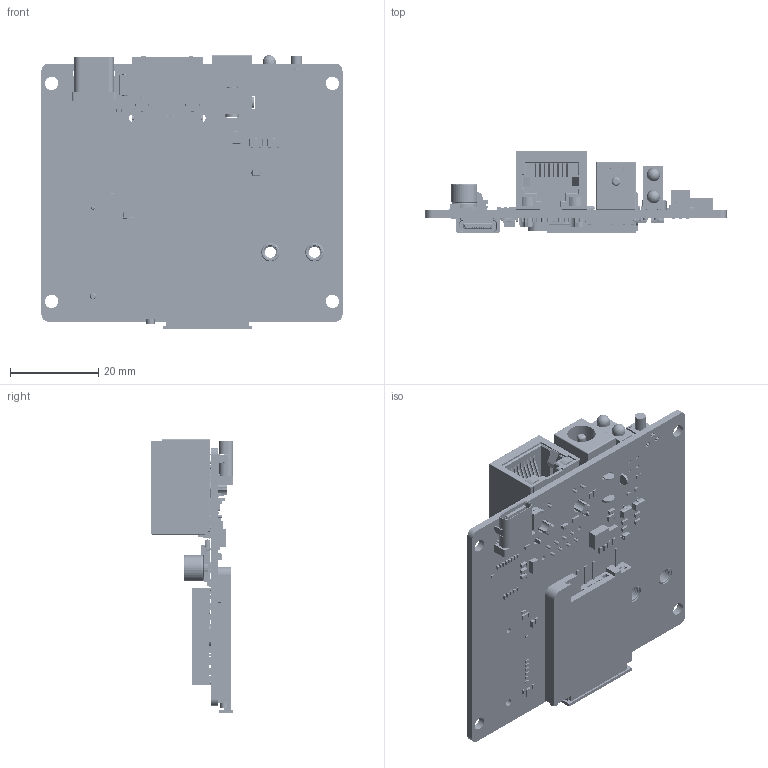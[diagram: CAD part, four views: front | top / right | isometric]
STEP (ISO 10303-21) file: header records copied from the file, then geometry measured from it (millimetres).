
FILE_DESCRIPTION((''),'2;1');
FILE_NAME('5G-M_2-TO-GIGABIT-ETH-PCBA_ASM','2024-09-12T16:56:38',('xiaojisheng'),(''),'CREO PARAMETRIC BY PTC INC, 2021063','CREO PARAMETRIC BY PTC INC, 2021063','');
FILE_SCHEMA(('CONFIG_CONTROL_DESIGN','SHAPE_APPEARANCE_LAYERS_GROUPS'));
Products named in the file (238): 5G-M_2-TO-GIGABIT-ETH-PCB-0811; TACT-SWITCH-4_5X4_5X6; LED_DOUBLE; DC-H11X9XL14_5; RJ45_HR911105A; TYPE-C_USB3_1-B-DIP-SMT-24P; WIFI-WIRLESS-BASE; STUDS-M3XH2_5; SIM3_0-PUSH-XNT; SOT-23; T1_ASM; USER_LIBRARY-RES_1609-0603_1; USER_LIBRARY-RES_1609-0603_2; USER_LIBRARY-RES_1609-0603_3; USER_LIBRARY-RES_1609-0603_4; USER_LIBRARY-RES_1609-0603_ASM; R24_ASM; R23_ASM; R22_ASM; R21_ASM; Q1_ASM; SOD323; D6_ASM; _2_1_20001; 5_1_2_A; _7_AF0; R_0402-3099_AF0_ASM_ASM; R_0402-5222_AF0_ASM_ASM; R0402_ASM; R34_ASM; R20_ASM; R19_ASM; R18_ASM; R17_ASM; L0603_1; L0603_2; L0603_3; L0603_ASM; L7_ASM; 2_1_200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
Assembly tree (360 placements, depth 9):
  5G-M_2-TO-GIGABIT-ETH-PCBA_ASM
    5G-M_2-TO-GIGABIT-ETH-PCB-0811
    TACT-SWITCH-4_5X4_5X6
    LED_DOUBLE
    DC-H11X9XL14_5
    RJ45_HR911105A
    TYPE-C_USB3_1-B-DIP-SMT-24P
    WIFI-WIRLESS-BASE
    STUDS-M3XH2_5  x2
    SIM3_0-PUSH-XNT
    5G_M_2_TO_GIGABIT_ETH_ASM
      PCB_ASM
        BACK-LAYOUT_ASM
          T1_ASM
            SOT-23
          R24_ASM
            USER_LIBRARY-RES_1609-0603_ASM
              USER_LIBRARY-RES_1609-0603_1
              USER_LIBRARY-RES_1609-0603_2
              USER_LIBRARY-RES_1609-0603_3
              USER_LIBRARY-RES_1609-0603_4
          R23_ASM
            USER_LIBRARY-RES_1609-0603_ASM
              USER_LIBRARY-RES_1609-0603_1
              USER_LIBRARY-RES_1609-0603_2
              USER_LIBRARY-RES_1609-0603_3
              USER_LIBRARY-RES_1609-0603_4
          R22_ASM
            USER_LIBRARY-RES_1609-0603_ASM
              USER_LIBRARY-RES_1609-0603_1
              USER_LIBRARY-RES_1609-0603_2
              USER_LIBRARY-RES_1609-0603_3
              USER_LIBRARY-RES_1609-0603_4
          R21_ASM
            USER_LIBRARY-RES_1609-0603_ASM
              USER_LIBRARY-RES_1609-0603_1
              USER_LIBRARY-RES_1609-0603_2
              USER_LIBRARY-RES_1609-0603_3
              USER_LIBRARY-RES_1609-0603_4
          Q1_ASM
            SOT-23
          D6_ASM
            SOD323
          R34_ASM
            R0402_ASM
              R_0402-5222_AF0_ASM_ASM
                R_0402-3099_AF0_ASM_ASM
                  _2_1_20001
                  5_1_2_A
                  _7_AF0
          R20_ASM
            R0402_ASM
              R_0402-5222_AF0_ASM_ASM
                R_0402-3099_AF0_ASM_ASM
                  _2_1_20001
                  5_1_2_A
                  _7_AF0
          R19_ASM
            R0402_ASM
              R_0402-5222_AF0_ASM_ASM
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Bounding box: 68.3 x 18.6 x 62.24 mm (x, y, z)
Volume: 14493.8 mm3; surface area: 19013.6 mm2
Topology: 414 solids, 421 shells, 52088 faces, 137417 edges, 90184 vertices
Faces by surface type: plane 37421, extrusion 10238, cylinder 3437, sphere 760, torus 118, bspline 86, cone 28
Entity records: 438514 total; most frequent: CARTESIAN_POINT 100675, ORIENTED_EDGE 50200, DIRECTION 42094, PRESENTATION_STYLE_ASSIGNMENT 28154, STYLED_ITEM 25138, EDGE_CURVE 25103, CURVE_STYLE 24958, VECTOR 20846
